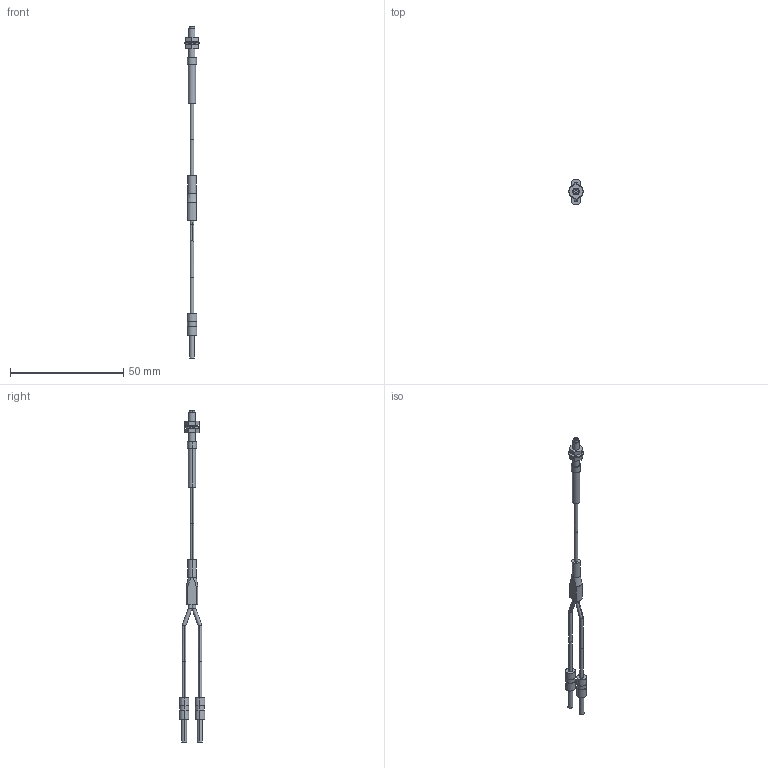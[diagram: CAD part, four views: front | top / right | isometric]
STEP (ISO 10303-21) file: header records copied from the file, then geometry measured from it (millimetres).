
FILE_DESCRIPTION (( 'STEP AP203' ), '1' );
FILE_NAME ('FD-EG2.STEP', '2005-09-04T09:22:58', ( '川島良英' ), ( ' ' ), 'SwSTEP 2.0', 'SolidWorks 2004251', '' );
FILE_SCHEMA (( 'CONFIG_CONTROL_DESIGN' ));
Length unit declared in the file: millimetre
Products named in the file (1): FD-EG2
Bounding box: 6.5 x 11.33 x 146.5 mm (x, y, z)
Volume: 1214.7 mm3; surface area: 1950.4 mm2
Topology: 7 solids, 7 shells, 104 faces, 214 edges, 140 vertices
Faces by surface type: cylinder 57, plane 45, cone 2
Entity records: 2893 total; most frequent: CARTESIAN_POINT 547, DIRECTION 506, ORIENTED_EDGE 428, EDGE_CURVE 214, AXIS2_PLACEMENT_3D 203, VERTEX_POINT 140, EDGE_LOOP 126, ADVANCED_FACE 104
